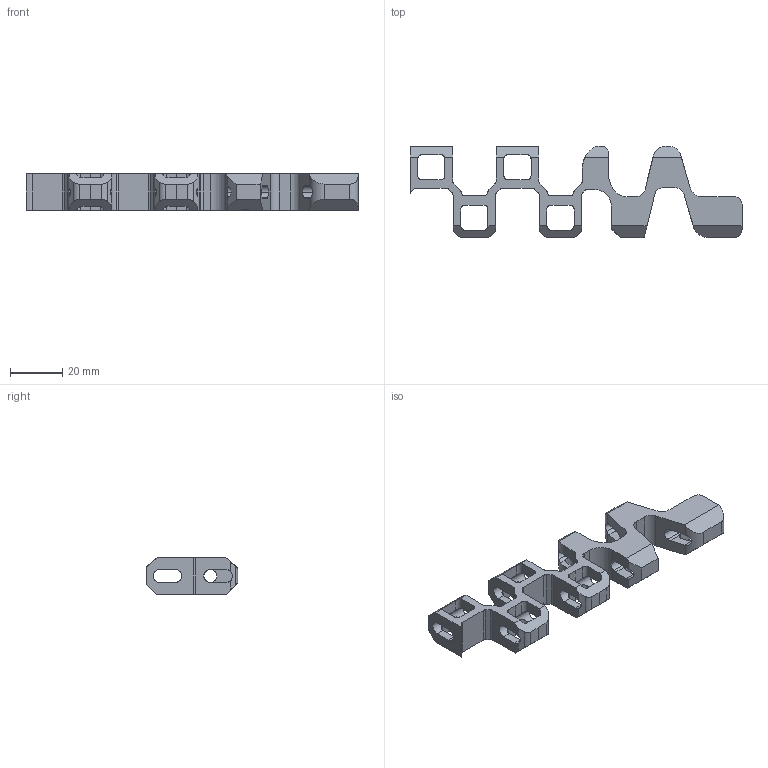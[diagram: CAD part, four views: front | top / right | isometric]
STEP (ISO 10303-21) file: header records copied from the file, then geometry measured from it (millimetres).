
FILE_DESCRIPTION(('CATIA V5 STEP Exchange'),'2;1');
FILE_NAME('C:\Users\ALI OZGUN\Desktop\alhan\940B01K10-sag.stp','2017-08-22T12:01:47+00:00',('none'),('none'),'CATIA Version 5 Release 21 GA (IN-10)','CATIA V5 STEP AP203','none');
FILE_SCHEMA(('CONFIG_CONTROL_DESIGN'));
Length unit declared in the file: millimetre
Products named in the file (1): 940B01K10-sag
Bounding box: 127.3 x 35 x 14 mm (x, y, z)
Volume: 16388.5 mm3; surface area: 12671.9 mm2
Topology: 1 solids, 1 shells, 290 faces, 969 edges, 646 vertices
Faces by surface type: plane 163, cylinder 119, extrusion 8
Entity records: 10843 total; most frequent: CARTESIAN_POINT 3096, ORIENTED_EDGE 1938, DIRECTION 1144, EDGE_CURVE 969, VERTEX_POINT 646, VECTOR 617, LINE 609, AXIS2_PLACEMENT_3D 355
